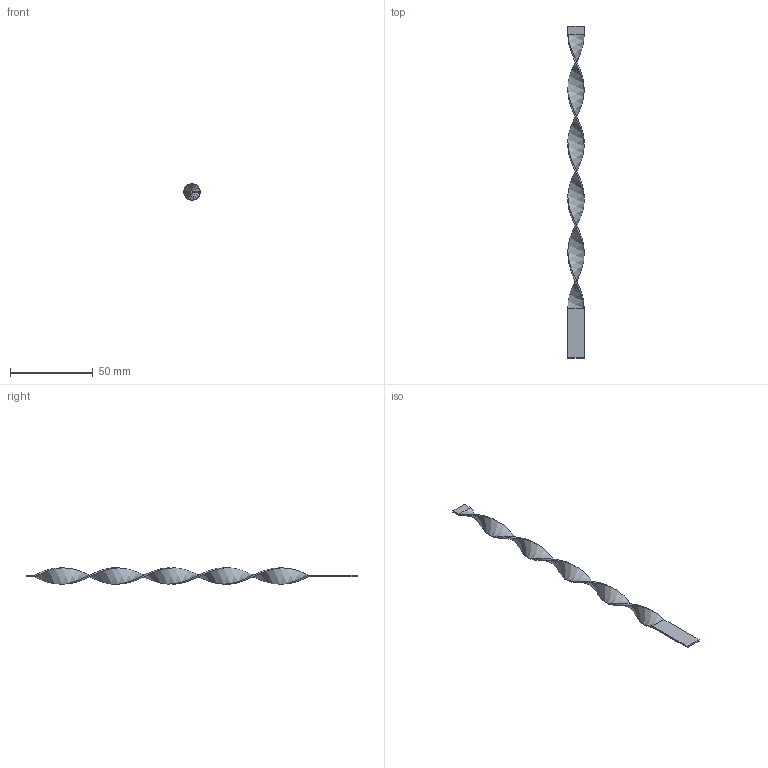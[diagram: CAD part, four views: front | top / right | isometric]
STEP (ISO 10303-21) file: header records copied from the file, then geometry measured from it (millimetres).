
FILE_DESCRIPTION (( 'STEP AP203' ), '1' );
FILE_NAME ('RLAS-10SMx200.STEP', '2015-12-10T13:32:07', ( 'Balzi' ), ( '' ), 'SwSTEP 2.0', 'SolidWorks 2015', '' );
FILE_SCHEMA (( 'CONFIG_CONTROL_DESIGN' ));
Length unit declared in the file: millimetre
Products named in the file (1): RLAS-10SMx200
Bounding box: 10.4 x 200 x 9.85 mm (x, y, z)
Volume: 1961.2 mm3; surface area: 4457.4 mm2
Topology: 1 solids, 1 shells, 22 faces, 52 edges, 32 vertices
Faces by surface type: plane 18, bspline 4
Entity records: 2469 total; most frequent: CARTESIAN_POINT 1923, ORIENTED_EDGE 104, DIRECTION 82, EDGE_CURVE 52, LINE 44, VECTOR 44, VERTEX_POINT 32, EDGE_LOOP 22
